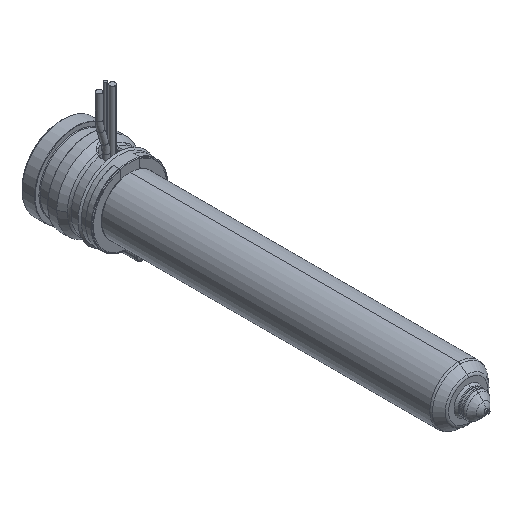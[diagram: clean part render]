
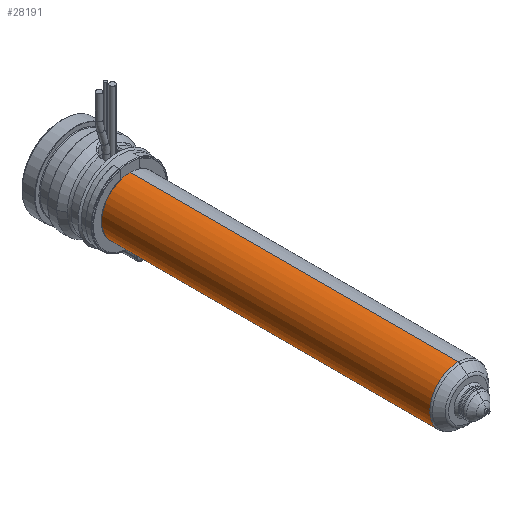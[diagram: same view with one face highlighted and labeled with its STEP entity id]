
A CAD part, isometric view. The second image highlights one B-rep face of the part: STEP entity #28191.
In plain terms, the highlighted cylindrical face has radius 9 mm (diameter 18 mm), a partial arc.
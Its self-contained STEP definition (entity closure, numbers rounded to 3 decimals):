
#27580=CARTESIAN_POINT('',(0.,-125.836,0.));
#27581=DIRECTION('',(0.,-1.,0.));
#27582=DIRECTION('',(0.,0.,1.));
#27583=AXIS2_PLACEMENT_3D('',#27580,#27581,#27582);
#27588=CARTESIAN_POINT('',(0.,-22.,0.));
#27589=DIRECTION('',(0.,-1.,0.));
#27590=DIRECTION('',(0.,0.,1.));
#27591=AXIS2_PLACEMENT_3D('',#27588,#27589,#27590);
#27596=DIRECTION('',(0.,-1.,0.));
#27597=VECTOR('',#27596,103.836);
#27598=CARTESIAN_POINT('',(0.,-22.,9.));
#27599=LINE('',#27598,#27597);
#27611=DIRECTION('',(0.,-1.,0.));
#27612=VECTOR('',#27611,103.836);
#27613=CARTESIAN_POINT('',(0.,-22.,-9.));
#27614=LINE('',#27613,#27612);
#27808=CARTESIAN_POINT('',(0.,-22.,9.));
#27809=CARTESIAN_POINT('',(0.,-125.836,9.));
#27810=VERTEX_POINT('',#27808);
#27811=VERTEX_POINT('',#27809);
#27834=CARTESIAN_POINT('',(0.,-22.,-9.));
#27835=CARTESIAN_POINT('',(0.,-125.836,-9.));
#27836=VERTEX_POINT('',#27834);
#27837=VERTEX_POINT('',#27835);
#28177=CARTESIAN_POINT('',(0.,-12.125,0.));
#28178=DIRECTION('',(0.,-1.,0.));
#28179=DIRECTION('',(0.,0.,1.));
#28180=AXIS2_PLACEMENT_3D('',#28177,#28178,#28179);
#28181=CYLINDRICAL_SURFACE('',#28180,9.);
#28183=ORIENTED_EDGE('',*,*,#28182,.T.);
#28184=ORIENTED_EDGE('',*,*,#28172,.T.);
#28186=ORIENTED_EDGE('',*,*,#28185,.F.);
#28188=ORIENTED_EDGE('',*,*,#28187,.F.);
#28189=EDGE_LOOP('',(#28183,#28184,#28186,#28188));
#28190=FACE_OUTER_BOUND('',#28189,.F.);
#28191=ADVANCED_FACE('',(#28190),#28181,.T.);
#27584=CIRCLE('',#27583,9.);
#27592=CIRCLE('',#27591,9.);
#28172=EDGE_CURVE('',#27811,#27837,#27584,.T.);
#28182=EDGE_CURVE('',#27810,#27811,#27599,.T.);
#28185=EDGE_CURVE('',#27836,#27837,#27614,.T.);
#28187=EDGE_CURVE('',#27810,#27836,#27592,.T.);
